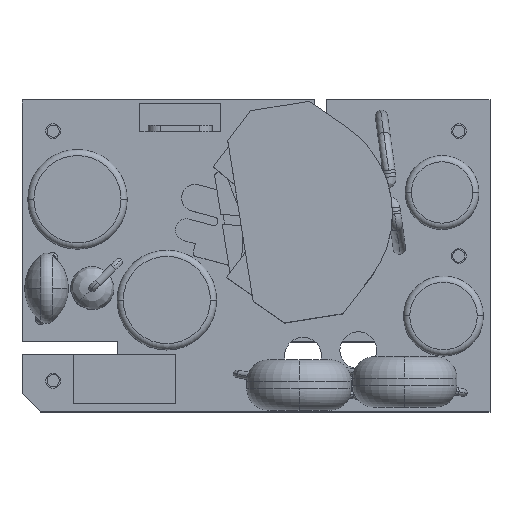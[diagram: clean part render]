
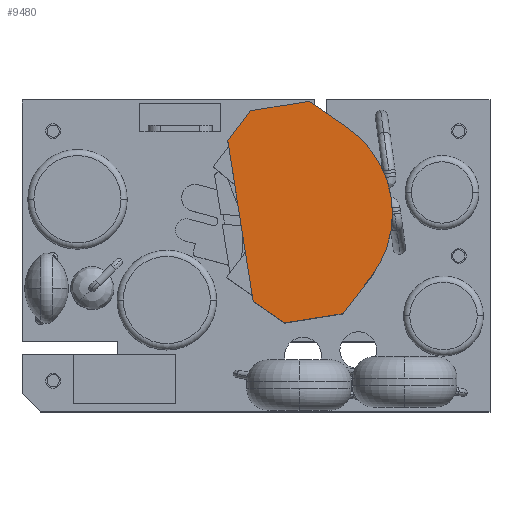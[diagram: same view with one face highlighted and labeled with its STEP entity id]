
A CAD part, top view. The second image highlights one B-rep face of the part: STEP entity #9480.
In plain terms, the highlighted planar face has unit normal (0, 0, 1) as drawn and (0, 1, 0) by its records, which use the part's own axes.
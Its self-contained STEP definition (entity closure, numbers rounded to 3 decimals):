
#23 = CARTESIAN_POINT ( 'NONE',  ( 2., 11.7, -9.15 ) ) ;
#254 = CARTESIAN_POINT ( 'NONE',  ( -2.418, 11.7, -8.75 ) ) ;
#360 = CARTESIAN_POINT ( 'NONE',  ( 5.144, 11.7, -6.144 ) ) ;
#415 = VECTOR ( 'NONE', #5819, 1000. ) ;
#560 = AXIS2_PLACEMENT_3D ( 'NONE', #9106, #13812, #10227 ) ;
#739 = VERTEX_POINT ( 'NONE', #1538 ) ;
#845 = VECTOR ( 'NONE', #7325, 1000. ) ;
#939 = VERTEX_POINT ( 'NONE', #4190 ) ;
#1278 = LINE ( 'NONE', #23, #415 ) ;
#1538 = CARTESIAN_POINT ( 'NONE',  ( -2.418, 11.7, 8.75 ) ) ;
#2396 = ORIENTED_EDGE ( 'NONE', *, *, #13133, .F. ) ;
#2411 = ORIENTED_EDGE ( 'NONE', *, *, #2681, .T. ) ;
#2681 = EDGE_CURVE ( 'NONE', #4725, #2873, #13565, .T. ) ;
#2873 = VERTEX_POINT ( 'NONE', #9742 ) ;
#3212 = AXIS2_PLACEMENT_3D ( 'NONE', #3689, #14188, #3992 ) ;
#3324 = LINE ( 'NONE', #10239, #8042 ) ;
#3689 = CARTESIAN_POINT ( 'NONE',  ( -0.73, 11.7, 0. ) ) ;
#3992 = DIRECTION ( 'NONE',  ( 0., 0., -1. ) ) ;
#4190 = CARTESIAN_POINT ( 'NONE',  ( 2.418, 11.7, -8.75 ) ) ;
#4417 = VECTOR ( 'NONE', #11782, 1000. ) ;
#4495 = VECTOR ( 'NONE', #9409, 1000. ) ;
#4696 = LINE ( 'NONE', #254, #845 ) ;
#4725 = VERTEX_POINT ( 'NONE', #10540 ) ;
#4828 = CARTESIAN_POINT ( 'NONE',  ( -4.65, 11.7, 6.616 ) ) ;
#5118 = PLANE ( 'NONE',  #3212 ) ;
#5677 = CARTESIAN_POINT ( 'NONE',  ( -4.65, 11.7, 6.616 ) ) ;
#5819 = DIRECTION ( 'NONE',  ( -0.723, 0., -0.691 ) ) ;
#5873 = LINE ( 'NONE', #4828, #4495 ) ;
#6215 = CARTESIAN_POINT ( 'NONE',  ( -2.418, 11.7, -8.75 ) ) ;
#6955 = CARTESIAN_POINT ( 'NONE',  ( -4.65, 11.7, -6.616 ) ) ;
#7058 = VERTEX_POINT ( 'NONE', #6215 ) ;
#7325 = DIRECTION ( 'NONE',  ( 1., 0., 0. ) ) ;
#7881 = VECTOR ( 'NONE', #13726, 1000. ) ;
#8042 = VECTOR ( 'NONE', #9116, 1000. ) ;
#8279 = CARTESIAN_POINT ( 'NONE',  ( -2., 11.7, -9.15 ) ) ;
#8563 = EDGE_CURVE ( 'NONE', #13276, #739, #5873, .T. ) ;
#8858 = EDGE_CURVE ( 'NONE', #13372, #13276, #9020, .T. ) ;
#9020 = LINE ( 'NONE', #13588, #7881 ) ;
#9044 = EDGE_LOOP ( 'NONE', ( #13159, #12443, #12200, #9378, #13872, #2396, #2411, #10543 ) ) ;
#9082 = CARTESIAN_POINT ( 'NONE',  ( 2., 11.7, 9.15 ) ) ;
#9106 = CARTESIAN_POINT ( 'NONE',  ( -0.73, 11.7, 0. ) ) ;
#9116 = DIRECTION ( 'NONE',  ( -1., 0., 0. ) ) ;
#9153 = EDGE_CURVE ( 'NONE', #12473, #939, #1278, .T. ) ;
#9285 = EDGE_CURVE ( 'NONE', #2873, #12473, #12782, .T. ) ;
#9378 = ORIENTED_EDGE ( 'NONE', *, *, #8858, .T. ) ;
#9409 = DIRECTION ( 'NONE',  ( 0.723, 0., 0.691 ) ) ;
#9480 = ADVANCED_FACE ( 'NONE', ( #12987 ), #5118, .F. ) ;
#9532 = EDGE_CURVE ( 'NONE', #7058, #13372, #12915, .T. ) ;
#9742 = CARTESIAN_POINT ( 'NONE',  ( 5.144, 11.7, 6.144 ) ) ;
#10227 = DIRECTION ( 'NONE',  ( 0., 0., -1. ) ) ;
#10239 = CARTESIAN_POINT ( 'NONE',  ( -2.418, 11.7, 8.75 ) ) ;
#10483 = VECTOR ( 'NONE', #12664, 1000. ) ;
#10540 = CARTESIAN_POINT ( 'NONE',  ( 2.418, 11.7, 8.75 ) ) ;
#10543 = ORIENTED_EDGE ( 'NONE', *, *, #9285, .T. ) ;
#11782 = DIRECTION ( 'NONE',  ( -0.723, 0., 0.691 ) ) ;
#12200 = ORIENTED_EDGE ( 'NONE', *, *, #9532, .T. ) ;
#12443 = ORIENTED_EDGE ( 'NONE', *, *, #14314, .F. ) ;
#12473 = VERTEX_POINT ( 'NONE', #360 ) ;
#12664 = DIRECTION ( 'NONE',  ( 0.723, 0., -0.691 ) ) ;
#12782 = CIRCLE ( 'NONE', #560, 8.5 ) ;
#12915 = LINE ( 'NONE', #8279, #4417 ) ;
#12987 = FACE_OUTER_BOUND ( 'NONE', #9044, .T. ) ;
#13133 = EDGE_CURVE ( 'NONE', #4725, #739, #3324, .T. ) ;
#13159 = ORIENTED_EDGE ( 'NONE', *, *, #9153, .T. ) ;
#13276 = VERTEX_POINT ( 'NONE', #5677 ) ;
#13372 = VERTEX_POINT ( 'NONE', #6955 ) ;
#13565 = LINE ( 'NONE', #9082, #10483 ) ;
#13588 = CARTESIAN_POINT ( 'NONE',  ( -4.65, 11.7, -6.616 ) ) ;
#13726 = DIRECTION ( 'NONE',  ( 0., 0., 1. ) ) ;
#13812 = DIRECTION ( 'NONE',  ( 0., 1., 0. ) ) ;
#13872 = ORIENTED_EDGE ( 'NONE', *, *, #8563, .T. ) ;
#14188 = DIRECTION ( 'NONE',  ( 0., -1., 0. ) ) ;
#14314 = EDGE_CURVE ( 'NONE', #7058, #939, #4696, .T. ) ;
